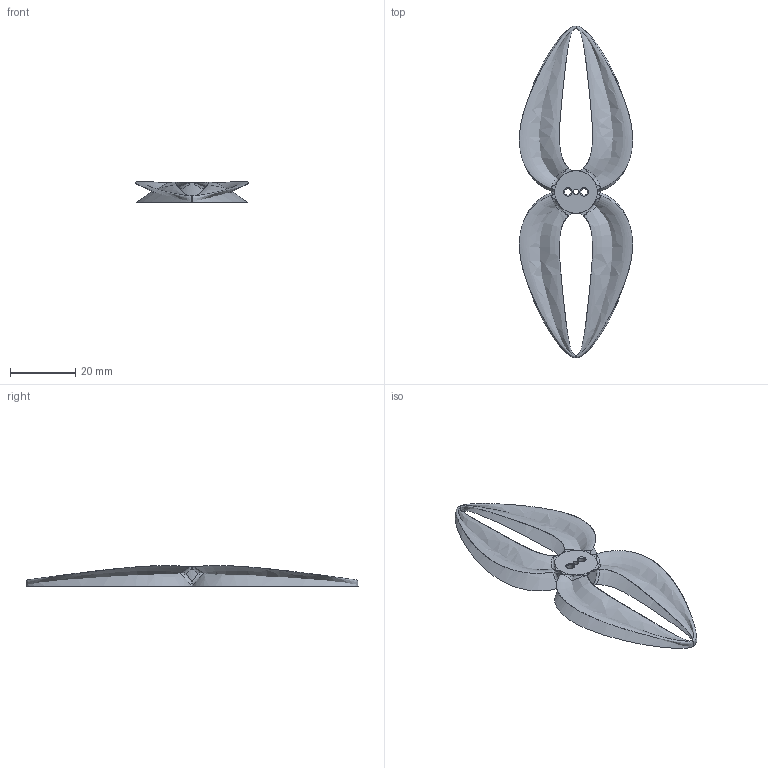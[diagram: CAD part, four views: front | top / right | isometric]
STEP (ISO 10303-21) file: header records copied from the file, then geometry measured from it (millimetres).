
FILE_DESCRIPTION(/* description */ (''),/* implementation_level */ '2;1');
FILE_NAME(/* name */ 'V2 Bi-Loop 4-inch.step',/* time_stamp */ '2023-02-14T12:37:07+07:00',/* author */ (''),/* organization */ (''),/* preprocessor_version */ 'ST-DEVELOPER v19.2',/* originating_system */ 'Autodesk Translation Framework v11.17.0.187',/* authorisation */ '');
FILE_SCHEMA (('AUTOMOTIVE_DESIGN { 1 0 10303 214 3 1 1 }'));
Length unit declared in the file: millimetre
Products named in the file (1): V2 Bi-Loop 4"
Bounding box: 34.65 x 101.6 x 6.41 mm (x, y, z)
Volume: 4011.4 mm3; surface area: 9239.2 mm2
Topology: 2 solids, 2 shells, 56 faces, 174 edges, 118 vertices
Faces by surface type: bspline 24, cylinder 22, cone 6, plane 4
Full cylindrical faces by diameter (mm): 1.6 x2, 2.1 x4
Entity records: 7524 total; most frequent: CARTESIAN_POINT 6193, ORIENTED_EDGE 348, EDGE_CURVE 174, DIRECTION 162, VERTEX_POINT 118, B_SPLINE_CURVE_WITH_KNOTS 92, AXIS2_PLACEMENT_3D 75, EDGE_LOOP 72
